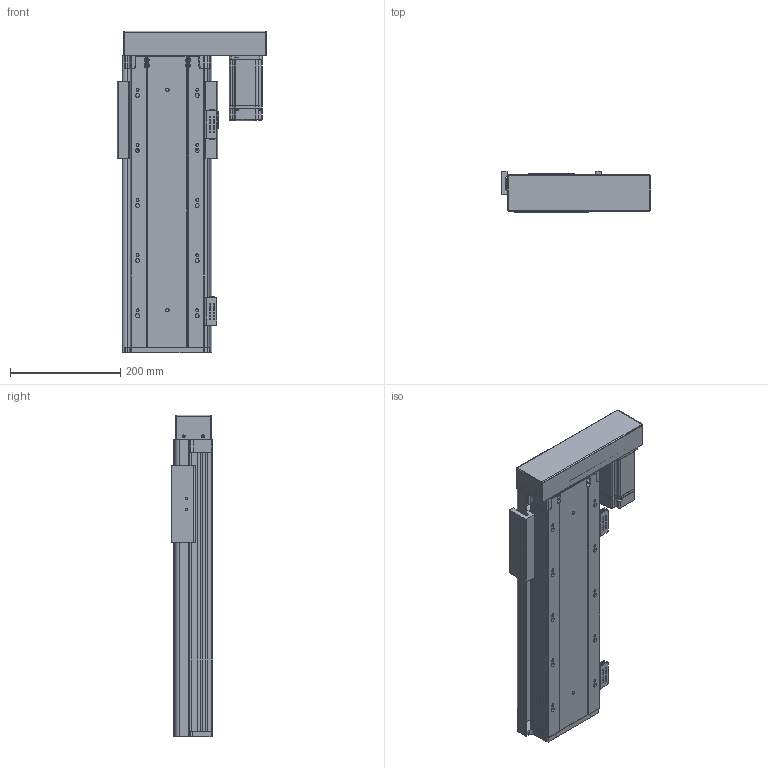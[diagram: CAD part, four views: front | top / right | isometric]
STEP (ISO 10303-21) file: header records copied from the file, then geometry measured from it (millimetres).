
FILE_DESCRIPTION (( 'STEP AP203' ), '1' );
FILE_NAME ('RY140FB-L2010-300-RK.SLDASM_300.step', '2021-02-23T02:40:38', ( '盈信电脑' ), ( '东莞市道滘镇水果街19号' ), 'SwSTEP 2.0', 'SolidWorks 2012', '' );
FILE_SCHEMA (( 'CONFIG_CONTROL_DESIGN' ));
Length unit declared in the file: millimetre
Products named in the file (17): RY140FB-20佪裝臏賑輸; RY140FB-转折电机端支撑座(7002); 滅袉蝶18-10; 滅袉蝶18-24; 15; RY140FB-300蛌殏倰第菁釱-RK; RY140FB-綴裔啣; RY140FB-300蛌殏奻裔啣-RK; RY140FB-L2010-300-RK.SLDASM_300; RY140FB-酘衵殏萇儂欶; RY140FB-覜茼え; RY140FB-左右折电机安装板; 覜茼ん674; RY140-674嫖萇耀輸; RY140直线电机感应器674光电安装座; 侂狟400W侜督萇儂
Assembly tree (20 placements, depth 3):
  RY140FB-L2010-300-RK.SLDASM_300
    RY140FB-300蛌殏倰第菁釱-RK
    RY140FB-綴裔啣
    滅袉蝶18-24  x2
    滅袉蝶18-10
    RY140FB-转折电机端支撑座(7002)
    侂狟400W侜督萇儂
      15
    RY140FB-20佪裝臏賑輸
    RY140FB-300蛌殏奻裔啣-RK
    RY140-674嫖萇耀輸
      覜茼ん674
      RY140直线电机感应器674光电安装座
    RY140-674嫖萇耀輸
      覜茼ん674  x2
      RY140直线电机感应器674光电安装座
    RY140FB-覜茼え
    RY140FB-左右折电机安装板
    RY140FB-酘衵殏萇儂欶
Bounding box: 271.3 x 75 x 583.2 mm (x, y, z)
Volume: 2857591.1 mm3; surface area: 915464 mm2
Topology: 17 solids, 17 shells, 1682 faces, 4559 edges, 2907 vertices
Faces by surface type: cylinder 785, plane 723, cone 146, bspline 28
Entity records: 50053 total; most frequent: CARTESIAN_POINT 9851, DIRECTION 8176, ORIENTED_EDGE 7874, EDGE_CURVE 3937, AXIS2_PLACEMENT_3D 2936, VERTEX_POINT 2575, VECTOR 2304, LINE 2304
